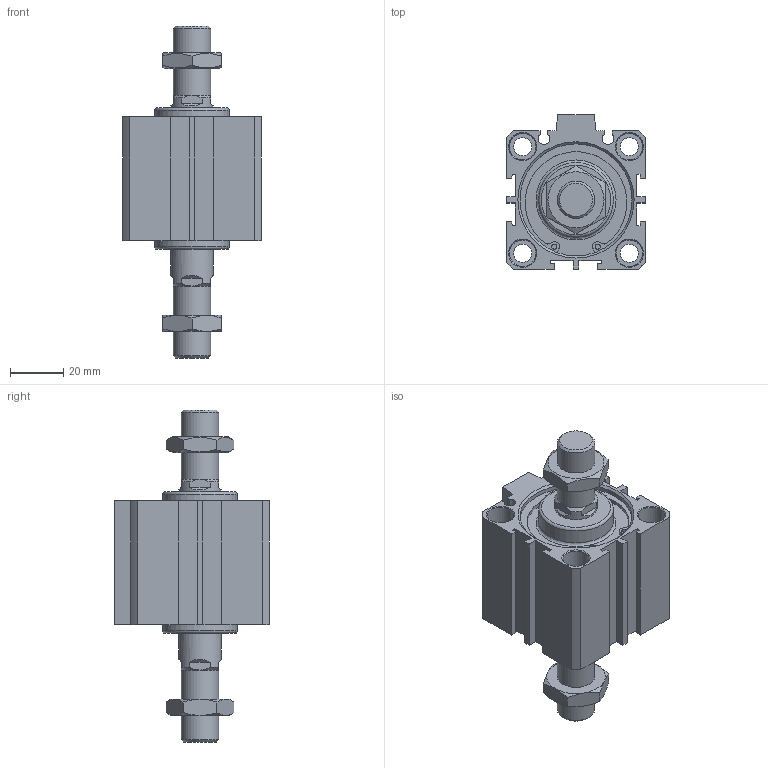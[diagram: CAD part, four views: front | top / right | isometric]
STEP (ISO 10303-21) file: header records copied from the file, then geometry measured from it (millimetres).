
FILE_DESCRIPTION((''),'2;1');
FILE_NAME('I:\3D電子目錄\氣缸\JDD\JDD-BS\JDD40-BS\JDD40x10-BS.stp','2007-02-27T14:28:23',('662F206'),(''),'Autodesk Inventor 10','Autodesk Inventor 10','');
FILE_SCHEMA(('AUTOMOTIVE_DESIGN { 1 0 10303 214 1 1 1 1 }'));
Length unit declared in the file: millimetre
Products named in the file (3): JDD40-BS; R 形環 42
Assembly tree (3 placements, depth 2):
  JDD40-BS
    JDD40-BS
    R 形環 42  x2
Bounding box: 52 x 58 x 124.5 mm (x, y, z)
Volume: 122732.4 mm3; surface area: 33249.1 mm2
Topology: 3 solids, 3 shells, 206 faces, 486 edges, 312 vertices
Faces by surface type: plane 114, cylinder 50, cone 38, bspline 2, torus 2
Full cylindrical faces by diameter (mm): 1.9 x4, 2.2 x2, 6.8 x4, 10 x8, 14 x4, 16 x2, 28 x2, 42 x4, 44.5 x2
Entity records: 5343 total; most frequent: CARTESIAN_POINT 1072, DIRECTION 880, ORIENTED_EDGE 792, EDGE_CURVE 396, AXIS2_PLACEMENT_3D 338, VERTEX_POINT 284, EDGE_LOOP 284, VECTOR 204
